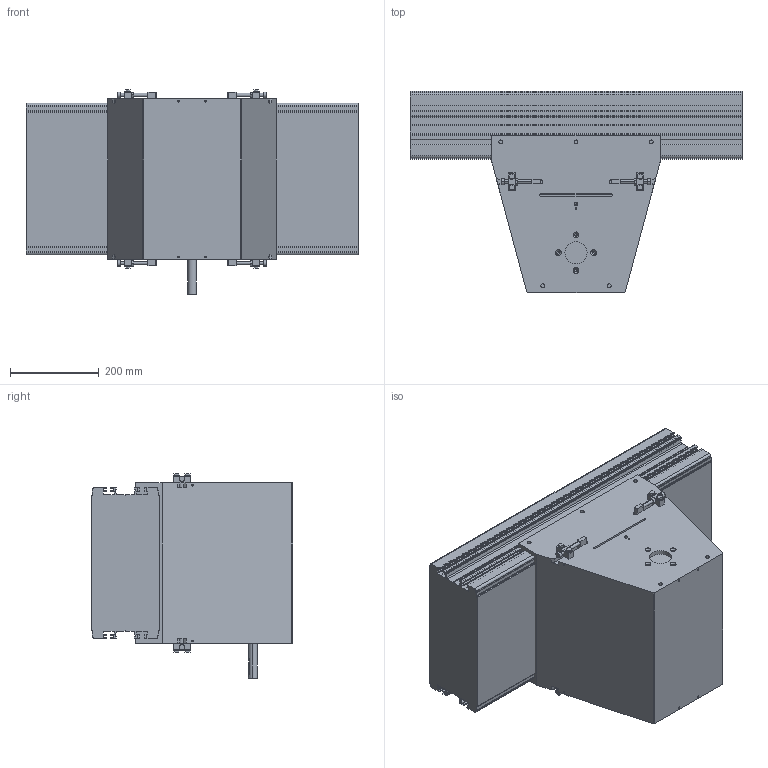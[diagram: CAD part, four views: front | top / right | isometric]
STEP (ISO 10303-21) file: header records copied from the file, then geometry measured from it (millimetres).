
FILE_DESCRIPTION (( 'STEP AP214' ), '1' );
FILE_NAME ('F2 1200 MID.step', '2017-04-05T06:47:35', ( '' ), ( '' ), 'SwSTEP 2.0', 'SolidWorks 2015', '' );
FILE_SCHEMA (( 'AUTOMOTIVE_DESIGN' ));
Length unit declared in the file: millimetre
Products named in the file (1): F2 1200 MID
Bounding box: 750 x 454.7 x 461.4 mm (x, y, z)
Volume: 77441958 mm3; surface area: 1901787.3 mm2
Topology: 31 solids, 35 shells, 668 faces, 1655 edges, 1044 vertices
Faces by surface type: plane 351, cylinder 233, cone 68, torus 16
Entity records: 23891 total; most frequent: DIRECTION 3449, CARTESIAN_POINT 3387, ORIENTED_EDGE 3206, EDGE_CURVE 1603, AXIS2_PLACEMENT_3D 1180, VECTOR 1089, LINE 1089, VERTEX_POINT 1044
